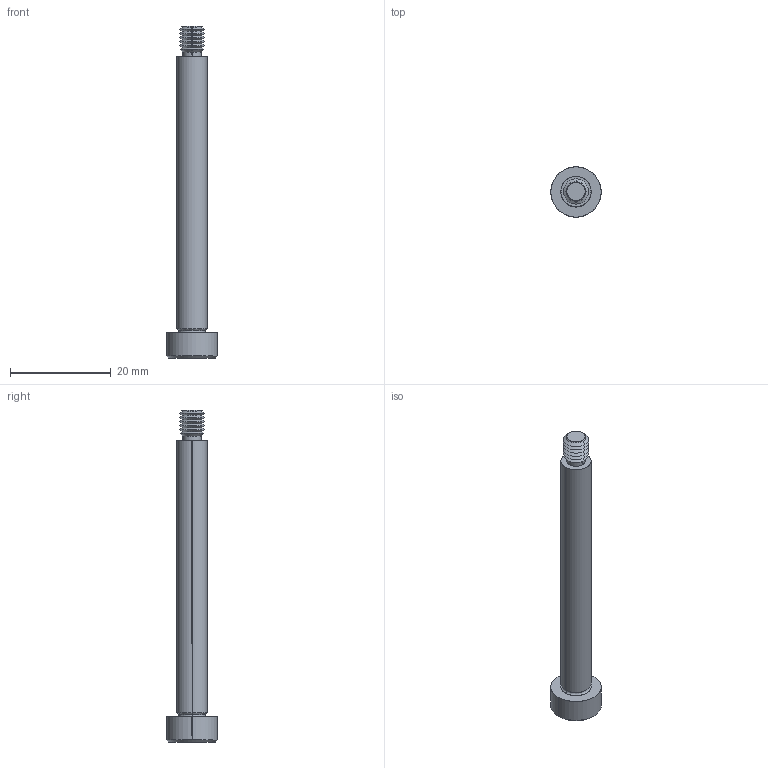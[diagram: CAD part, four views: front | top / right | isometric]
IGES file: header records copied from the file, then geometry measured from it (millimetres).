
Start section: SolidWorks IGES file using analytic representation for surfaces
Global section: file name: C:\Users\IanO\Documents\Temp Folder\GENERAL\SCREW REVISION\P0130_v2\P0130.T5_v2_20220106_IGES\P0130.060-055-T5.igs; native system: SolidWorks 2019; preprocessor: SolidWorks 2019; author: IanO; date: 220106.222730; units: millimetre
Bounding box: 10 x 10 x 66 mm (x, y, z)
Surface area: 1524.3 mm2 (no closed solid volume)
Topology: 0 solids, 0 shells, 64 faces, 504 edges, 502 vertices
Faces by surface type: revolution 44, bspline 20
